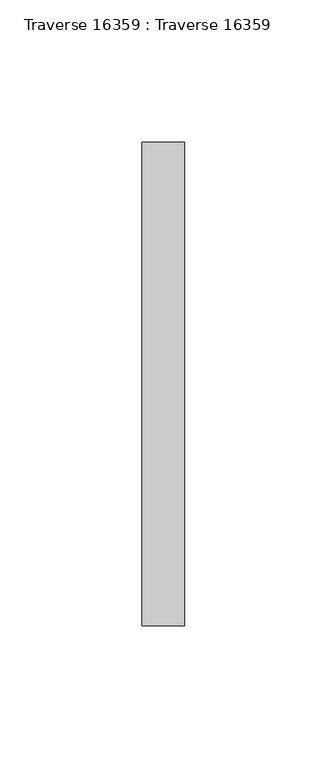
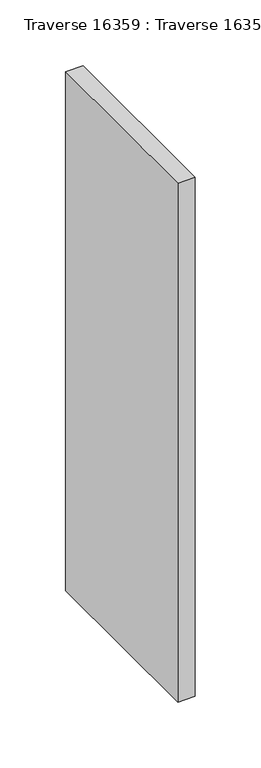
"""IFC4 building model written with IfcOpenShell, lengths in millimetres: beam geometry, Traverse 16359 : Traverse 16359."""

from ifc_helpers import new_model, si_unit, frame, origin, place, context, project, spatial, polyline, outline, extrude, source, transform, mapped, element, save


def traverse_16359_traverse_16359_e9926a7b(model_context):
    return source(origin(), model_context, "Body", "SweptSolid", [
        extrude(outline(polyline([(0.0, -170.0), (0.0, 0.0), (14.9999999, 0.0), (14.9999999, -170.0), (0.0, -170.0)])), frame((195.0188377, -39900.0, 7546.5810202), z_axis=(-3.9221443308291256e-05, 0.0, 0.9999999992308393), x_axis=(-0.9999999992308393, 0.0, -3.9221443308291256e-05)), (0.0, 0.0, 1.0), 480.2956942),
    ])


if __name__ == "__main__":
    model = new_model("IFC4")
    model_context = context("Model", 3, world=origin())
    ifc_project = project(units=[si_unit("LENGTHUNIT", "METRE", prefix="MILLI")], contexts=[model_context])
    site = spatial("IfcSite", under=ifc_project)
    building = spatial("IfcBuilding", under=site)
    placement = place(None, origin())
    traverse_16359_traverse_16359_shape = traverse_16359_traverse_16359_e9926a7b(model_context)
    element("IfcBeam", 1, ObjectType="Traverse 16359 : Traverse 16359", at=placement, inside=building, context=model_context, shape_type="MappedRepresentation", body=[
        mapped(traverse_16359_traverse_16359_shape, transform((0.0, 0.0, 0.0), x_axis=(1.0, 0.0, 0.0), y_axis=(0.0, 1.0, 0.0), z_axis=(0.0, 0.0, 1.0))),
    ])
    save(model, "model.ifc")
